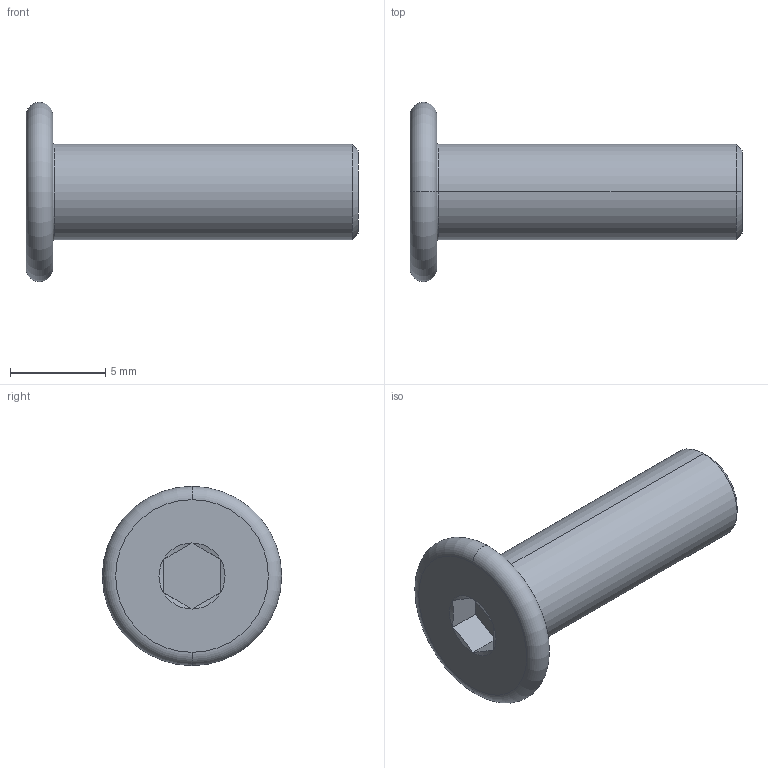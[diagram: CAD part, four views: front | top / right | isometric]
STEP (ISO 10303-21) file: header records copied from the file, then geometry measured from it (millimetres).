
FILE_DESCRIPTION (( 'STEP AP203' ), '1' );
FILE_NAME ('LGD-304M-M5x16.STEP', '2026-08-13T10:39:02', ( '' ), ( '' ), 'SwSTEP 2.0', 'SolidWorks 2020', '' );
FILE_SCHEMA (( 'CONFIG_CONTROL_DESIGN' ));
Length unit declared in the file: millimetre
Products named in the file (1): LGD-304M-M5x16
Bounding box: 17.4 x 9.4 x 9.4 mm (x, y, z)
Volume: 391.4 mm3; surface area: 427 mm2
Topology: 1 solids, 1 shells, 24 faces, 44 edges, 24 vertices
Faces by surface type: plane 10, cone 8, torus 4, cylinder 2
Entity records: 673 total; most frequent: CARTESIAN_POINT 119, DIRECTION 110, ORIENTED_EDGE 88, AXIS2_PLACEMENT_3D 47, EDGE_CURVE 44, EDGE_LOOP 26, FACE_OUTER_BOUND 24, VERTEX_POINT 24
